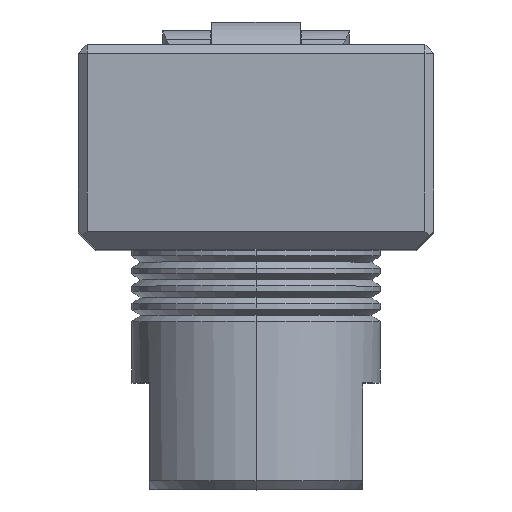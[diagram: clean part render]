
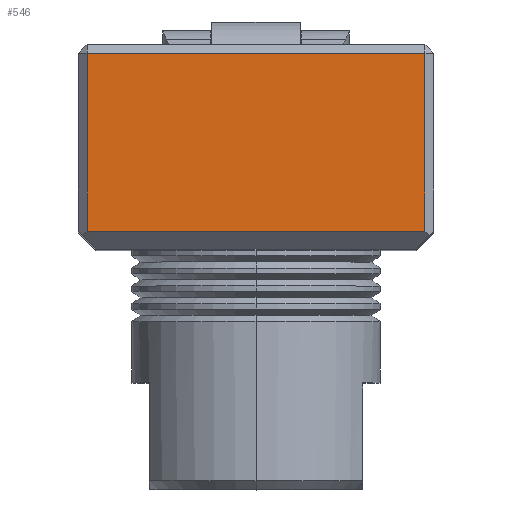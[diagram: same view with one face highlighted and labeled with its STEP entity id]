
A CAD part, top view. The second image highlights one B-rep face of the part: STEP entity #546.
In plain terms, the highlighted planar face has unit normal (0, 0, 1).
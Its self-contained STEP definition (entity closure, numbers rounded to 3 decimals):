
#476 = ORIENTED_EDGE ( 'NONE', *, *, #477, .T. ) ;
#477 = EDGE_CURVE ( 'NONE', #556, #549, #1119, .T. ) ;
#495 = EDGE_LOOP ( 'NONE', ( #547, #551, #554, #476 ) ) ;
#546 = ADVANCED_FACE ( 'NONE', ( #1254 ), #1253, .F. ) ;
#547 = ORIENTED_EDGE ( 'NONE', *, *, #548, .T. ) ;
#548 = EDGE_CURVE ( 'NONE', #549, #550, #1248, .T. ) ;
#549 = VERTEX_POINT ( 'NONE', #1244 ) ;
#550 = VERTEX_POINT ( 'NONE', #1243 ) ;
#551 = ORIENTED_EDGE ( 'NONE', *, *, #552, .T. ) ;
#552 = EDGE_CURVE ( 'NONE', #550, #553, #1305, .T. ) ;
#553 = VERTEX_POINT ( 'NONE', #1301 ) ;
#554 = ORIENTED_EDGE ( 'NONE', *, *, #555, .T. ) ;
#555 = EDGE_CURVE ( 'NONE', #553, #556, #1300, .T. ) ;
#556 = VERTEX_POINT ( 'NONE', #1296 ) ;
#1116 = DIRECTION ( 'NONE',  ( -1., 0., 0. ) ) ;
#1117 = VECTOR ( 'NONE', #1116, 1000. ) ;
#1118 = CARTESIAN_POINT ( 'NONE',  ( -10., 11., 30. ) ) ;
#1119 = LINE ( 'NONE', #1118, #1117 ) ;
#1243 = CARTESIAN_POINT ( 'NONE',  ( -9.5, 1., 30. ) ) ;
#1244 = CARTESIAN_POINT ( 'NONE',  ( -9.5, 11., 30. ) ) ;
#1245 = DIRECTION ( 'NONE',  ( 0., -1., 0. ) ) ;
#1246 = VECTOR ( 'NONE', #1245, 1000. ) ;
#1247 = CARTESIAN_POINT ( 'NONE',  ( -9.5, 0., 30. ) ) ;
#1248 = LINE ( 'NONE', #1247, #1246 ) ;
#1249 = DIRECTION ( 'NONE',  ( -1., 0., 0. ) ) ;
#1250 = DIRECTION ( 'NONE',  ( 0., 0., -1. ) ) ;
#1251 = CARTESIAN_POINT ( 'NONE',  ( 10., 11.5, 30. ) ) ;
#1252 = AXIS2_PLACEMENT_3D ( 'NONE', #1251, #1250, #1249 ) ;
#1253 = PLANE ( 'NONE',  #1252 ) ;
#1254 = FACE_OUTER_BOUND ( 'NONE', #495, .T. ) ;
#1296 = CARTESIAN_POINT ( 'NONE',  ( 9.5, 11., 30. ) ) ;
#1297 = DIRECTION ( 'NONE',  ( 0., 1., 0. ) ) ;
#1298 = VECTOR ( 'NONE', #1297, 1000. ) ;
#1299 = CARTESIAN_POINT ( 'NONE',  ( 9.5, 11.5, 30. ) ) ;
#1300 = LINE ( 'NONE', #1299, #1298 ) ;
#1301 = CARTESIAN_POINT ( 'NONE',  ( 9.5, 1., 30. ) ) ;
#1302 = DIRECTION ( 'NONE',  ( 1., 0., 0. ) ) ;
#1303 = VECTOR ( 'NONE', #1302, 1000. ) ;
#1304 = CARTESIAN_POINT ( 'NONE',  ( 9.5, 1., 30. ) ) ;
#1305 = LINE ( 'NONE', #1304, #1303 ) ;
